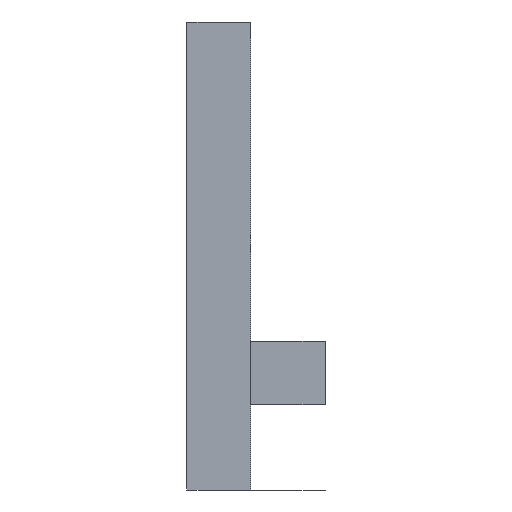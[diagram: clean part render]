
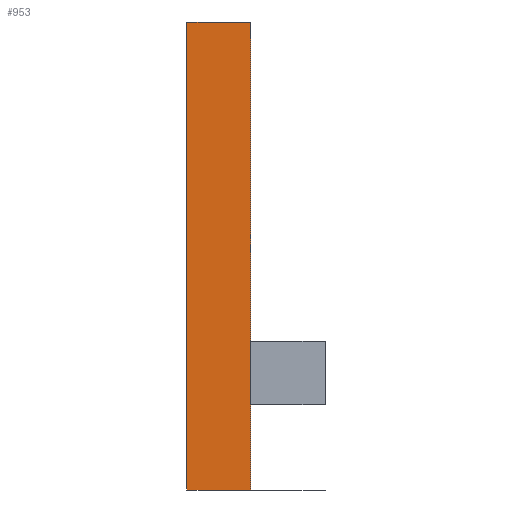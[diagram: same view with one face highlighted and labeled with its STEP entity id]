
A CAD part, left-side view. The second image highlights one B-rep face of the part: STEP entity #953.
In plain terms, the highlighted free-form (B-spline) face has degree [1, 1] with [2, 2] control points.
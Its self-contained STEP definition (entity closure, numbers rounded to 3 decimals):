
#346=CARTESIAN_POINT('',(-191.5,0.,22.));
#347=VERTEX_POINT('',#346);
#353=CARTESIAN_POINT('',(-191.5,0.,-22.));
#354=VERTEX_POINT('',#353);
#355=CARTESIAN_POINT('',(-191.5,0.,-22.));
#356=CARTESIAN_POINT('',(-191.5,0.,22.));
#357=B_SPLINE_CURVE_WITH_KNOTS('',1,(#355,#356),.UNSPECIFIED.,.F.,.F.,(2,2),(0.,0.044),.UNSPECIFIED.);
#358=EDGE_CURVE('',#354,#347,#357,.T.);
#381=CARTESIAN_POINT('',(-191.5,6.,-22.));
#382=VERTEX_POINT('',#381);
#383=CARTESIAN_POINT('',(-191.5,6.,-22.));
#384=CARTESIAN_POINT('',(-191.5,0.,-22.));
#385=B_SPLINE_CURVE_WITH_KNOTS('',1,(#383,#384),.UNSPECIFIED.,.F.,.F.,(2,2),(0.,0.006),.UNSPECIFIED.);
#386=EDGE_CURVE('',#382,#354,#385,.T.);
#932=CARTESIAN_POINT('',(-191.5,0.,22.));
#933=CARTESIAN_POINT('',(-191.5,6.,22.));
#934=CARTESIAN_POINT('',(-191.5,0.,-22.));
#935=CARTESIAN_POINT('',(-191.5,6.,-22.));
#936=B_SPLINE_SURFACE_WITH_KNOTS('',1,1,((#932,#933),(#934,#935)),.UNSPECIFIED.,.F.,.F.,.U.,(2,2),(2,2),(-0.044,0.),(-0.006,0.),.UNSPECIFIED.);
#937=ORIENTED_EDGE('',*,*,#358,.T.);
#938=CARTESIAN_POINT('',(-191.5,6.,22.));
#939=VERTEX_POINT('',#938);
#940=CARTESIAN_POINT('',(-191.5,6.,22.));
#941=CARTESIAN_POINT('',(-191.5,0.,22.));
#942=B_SPLINE_CURVE_WITH_KNOTS('',1,(#940,#941),.UNSPECIFIED.,.F.,.F.,(2,2),(0.,0.006),.UNSPECIFIED.);
#943=EDGE_CURVE('',#939,#347,#942,.T.);
#944=ORIENTED_EDGE('',*,*,#943,.F.);
#945=CARTESIAN_POINT('',(-191.5,6.,-22.));
#946=CARTESIAN_POINT('',(-191.5,6.,22.));
#947=B_SPLINE_CURVE_WITH_KNOTS('',1,(#945,#946),.UNSPECIFIED.,.F.,.F.,(2,2),(0.,0.044),.UNSPECIFIED.);
#948=EDGE_CURVE('',#382,#939,#947,.T.);
#949=ORIENTED_EDGE('',*,*,#948,.F.);
#950=ORIENTED_EDGE('',*,*,#386,.T.);
#951=EDGE_LOOP('',(#937,#944,#949,#950));
#952=FACE_BOUND('',#951,.T.);
#953=ADVANCED_FACE('',(#952),#936,.F.);
